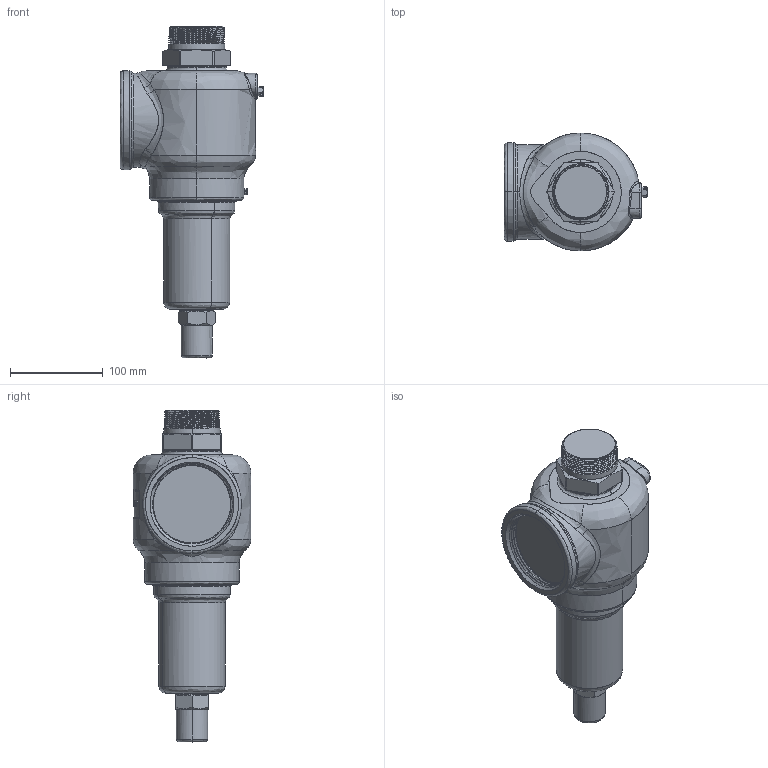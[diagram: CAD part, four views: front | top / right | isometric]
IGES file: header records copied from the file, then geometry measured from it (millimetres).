
Start section: SolidWorks IGES file using NURBS representation for surfaces
Global section: file name: C:\Design\Design\Aquatrol\Customer 3D Files\Series 740 Customer Files\J Orifice\Customer\Iges Files\Series 740 J 2000 x 3000 Closed Cap.IGS; native system: SolidWorks 2015; preprocessor: SolidWorks 2015; author: Karl; date: 150515.104252; units: inch
Bounding box: 154.94 x 127 x 357.97 mm (x, y, z)
Surface area: 132230.8 mm2 (no closed solid volume)
Topology: 0 solids, 0 shells, 361 faces, 7707 edges, 7707 vertices
Faces by surface type: bspline 361
